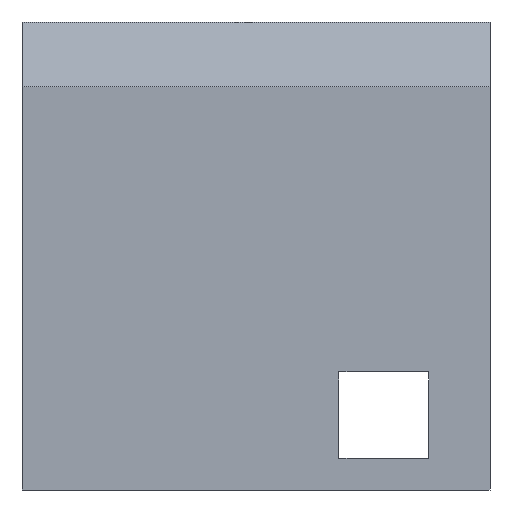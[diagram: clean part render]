
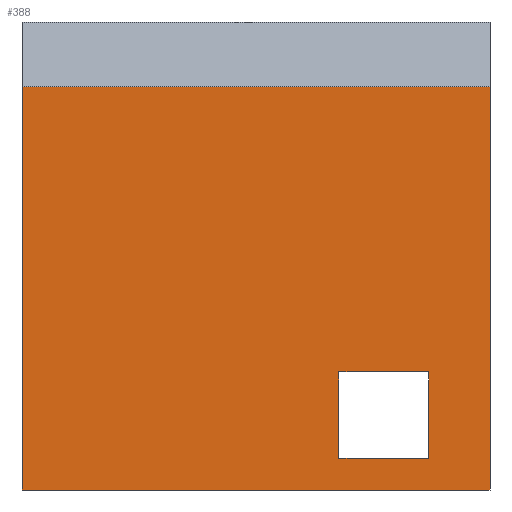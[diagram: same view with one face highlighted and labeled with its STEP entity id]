
A CAD part, left-side view. The second image highlights one B-rep face of the part: STEP entity #388.
In plain terms, the highlighted planar face has unit normal (-1, 0, 0).
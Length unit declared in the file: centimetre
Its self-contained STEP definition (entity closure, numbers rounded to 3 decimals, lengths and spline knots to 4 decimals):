
#43 = EDGE_CURVE ( 'NONE', #638, #939, #402, .T. ) ;
#53 = VECTOR ( 'NONE', #112, 100. ) ;
#62 = LINE ( 'NONE', #432, #53 ) ;
#104 = EDGE_CURVE ( 'NONE', #349, #1048, #1130, .T. ) ;
#112 = DIRECTION ( 'NONE',  ( 0., 1., 0. ) ) ;
#136 = CARTESIAN_POINT ( 'NONE',  ( 0., 0., 0. ) ) ;
#138 = VERTEX_POINT ( 'NONE', #866 ) ;
#145 = LINE ( 'NONE', #788, #231 ) ;
#164 = CARTESIAN_POINT ( 'NONE',  ( 0., 130.5599, 252.1968 ) ) ;
#231 = VECTOR ( 'NONE', #579, 100. ) ;
#240 = FACE_BOUND ( 'NONE', #657, .T. ) ;
#259 = CARTESIAN_POINT ( 'NONE',  ( 0., 130.5599, 252.1968 ) ) ;
#288 = EDGE_CURVE ( 'NONE', #561, #138, #720, .T. ) ;
#302 = EDGE_CURVE ( 'NONE', #1183, #638, #625, .T. ) ;
#305 = CARTESIAN_POINT ( 'NONE',  ( 0., 0., 1000. ) ) ;
#317 = VECTOR ( 'NONE', #884, 100. ) ;
#325 = ORIENTED_EDGE ( 'NONE', *, *, #302, .T. ) ;
#349 = VERTEX_POINT ( 'NONE', #404 ) ;
#364 = ORIENTED_EDGE ( 'NONE', *, *, #288, .T. ) ;
#388 = ADVANCED_FACE ( 'NONE', ( #240, #599 ), #425, .F. ) ;
#392 = CARTESIAN_POINT ( 'NONE',  ( 0., 322.8354, 67.7252 ) ) ;
#402 = LINE ( 'NONE', #1037, #317 ) ;
#404 = CARTESIAN_POINT ( 'NONE',  ( 0., 0., 861.4503 ) ) ;
#406 = VECTOR ( 'NONE', #602, 100. ) ;
#425 = PLANE ( 'NONE',  #520 ) ;
#432 = CARTESIAN_POINT ( 'NONE',  ( 0., 1000., 861.4503 ) ) ;
#460 = ORIENTED_EDGE ( 'NONE', *, *, #611, .T. ) ;
#467 = VECTOR ( 'NONE', #658, 100. ) ;
#474 = ORIENTED_EDGE ( 'NONE', *, *, #104, .F. ) ;
#520 = AXIS2_PLACEMENT_3D ( 'NONE', #986, #1080, #1191 ) ;
#522 = LINE ( 'NONE', #694, #406 ) ;
#561 = VERTEX_POINT ( 'NONE', #1154 ) ;
#563 = ORIENTED_EDGE ( 'NONE', *, *, #593, .T. ) ;
#579 = DIRECTION ( 'NONE',  ( 0., 0., 1. ) ) ;
#593 = EDGE_CURVE ( 'NONE', #1126, #1183, #145, .T. ) ;
#599 = FACE_OUTER_BOUND ( 'NONE', #1041, .T. ) ;
#602 = DIRECTION ( 'NONE',  ( 0., -1., 0. ) ) ;
#611 = EDGE_CURVE ( 'NONE', #939, #1126, #784, .T. ) ;
#614 = DIRECTION ( 'NONE',  ( 0., -1., 0. ) ) ;
#620 = DIRECTION ( 'NONE',  ( 0., 0., -1. ) ) ;
#625 = LINE ( 'NONE', #164, #1147 ) ;
#638 = VERTEX_POINT ( 'NONE', #259 ) ;
#643 = EDGE_CURVE ( 'NONE', #138, #1048, #522, .T. ) ;
#657 = EDGE_LOOP ( 'NONE', ( #708, #460, #563, #325 ) ) ;
#658 = DIRECTION ( 'NONE',  ( 0., 0., -1. ) ) ;
#670 = CARTESIAN_POINT ( 'NONE',  ( 0., 130.5599, 67.7252 ) ) ;
#694 = CARTESIAN_POINT ( 'NONE',  ( 0., 1000., 0. ) ) ;
#708 = ORIENTED_EDGE ( 'NONE', *, *, #43, .T. ) ;
#712 = VECTOR ( 'NONE', #620, 100. ) ;
#720 = LINE ( 'NONE', #1095, #712 ) ;
#755 = ORIENTED_EDGE ( 'NONE', *, *, #643, .T. ) ;
#784 = LINE ( 'NONE', #670, #807 ) ;
#788 = CARTESIAN_POINT ( 'NONE',  ( 0., 322.8354, 67.7252 ) ) ;
#807 = VECTOR ( 'NONE', #1164, 100. ) ;
#839 = ORIENTED_EDGE ( 'NONE', *, *, #843, .T. ) ;
#843 = EDGE_CURVE ( 'NONE', #349, #561, #62, .T. ) ;
#866 = CARTESIAN_POINT ( 'NONE',  ( 0., 1000., 0. ) ) ;
#884 = DIRECTION ( 'NONE',  ( 0., 0., -1. ) ) ;
#939 = VERTEX_POINT ( 'NONE', #1196 ) ;
#986 = CARTESIAN_POINT ( 'NONE',  ( 0., 1000., 1000. ) ) ;
#1037 = CARTESIAN_POINT ( 'NONE',  ( 0., 130.5599, 67.7252 ) ) ;
#1041 = EDGE_LOOP ( 'NONE', ( #474, #839, #364, #755 ) ) ;
#1048 = VERTEX_POINT ( 'NONE', #136 ) ;
#1063 = CARTESIAN_POINT ( 'NONE',  ( 0., 322.8354, 252.1968 ) ) ;
#1080 = DIRECTION ( 'NONE',  ( 1., 0., 0. ) ) ;
#1095 = CARTESIAN_POINT ( 'NONE',  ( 0., 1000., 1000. ) ) ;
#1126 = VERTEX_POINT ( 'NONE', #392 ) ;
#1130 = LINE ( 'NONE', #305, #467 ) ;
#1147 = VECTOR ( 'NONE', #614, 100. ) ;
#1154 = CARTESIAN_POINT ( 'NONE',  ( 0., 1000., 861.4503 ) ) ;
#1164 = DIRECTION ( 'NONE',  ( 0., 1., 0. ) ) ;
#1183 = VERTEX_POINT ( 'NONE', #1063 ) ;
#1191 = DIRECTION ( 'NONE',  ( 0., 0., -1. ) ) ;
#1196 = CARTESIAN_POINT ( 'NONE',  ( 0., 130.5599, 67.7252 ) ) ;
